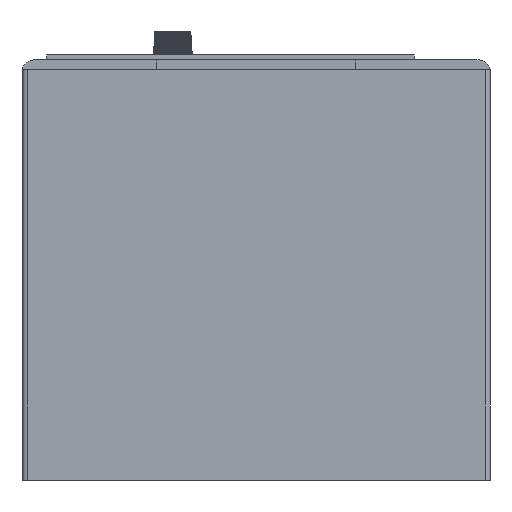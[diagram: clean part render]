
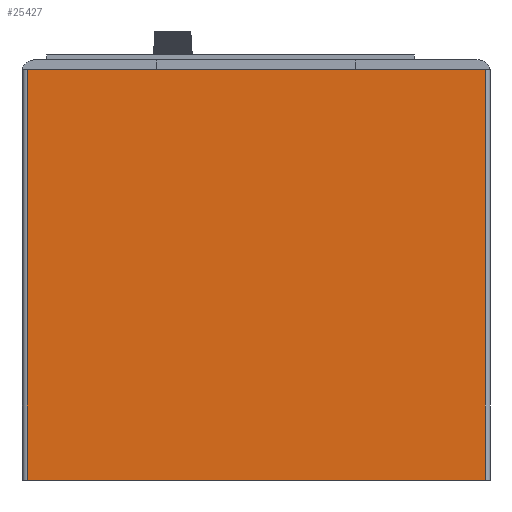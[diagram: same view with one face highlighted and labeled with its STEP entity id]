
A CAD part, front view. The second image highlights one B-rep face of the part: STEP entity #25427.
In plain terms, the highlighted planar face has unit normal (0, -1, 0).
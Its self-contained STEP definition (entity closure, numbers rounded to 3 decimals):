
#1543=PLANE('',#27088);
#2588=FACE_OUTER_BOUND('',#4231,.T.);
#4231=EDGE_LOOP('',(#17906,#17907,#17908,#17909));
#6463=LINE('',#36108,#8689);
#6464=LINE('',#36111,#8690);
#6465=LINE('',#36113,#8691);
#6466=LINE('',#36114,#8692);
#8689=VECTOR('',#29356,10.);
#8690=VECTOR('',#29359,10.);
#8691=VECTOR('',#29360,10.);
#8692=VECTOR('',#29361,10.);
#11726=VERTEX_POINT('',#36101);
#11729=VERTEX_POINT('',#36106);
#11730=VERTEX_POINT('',#36110);
#11731=VERTEX_POINT('',#36112);
#14301=EDGE_CURVE('',#11729,#11726,#6463,.T.);
#14302=EDGE_CURVE('',#11730,#11729,#6464,.T.);
#14303=EDGE_CURVE('',#11731,#11730,#6465,.T.);
#14304=EDGE_CURVE('',#11726,#11731,#6466,.T.);
#17906=ORIENTED_EDGE('',*,*,#14301,.F.);
#17907=ORIENTED_EDGE('',*,*,#14302,.F.);
#17908=ORIENTED_EDGE('',*,*,#14303,.F.);
#17909=ORIENTED_EDGE('',*,*,#14304,.F.);
#25427=ADVANCED_FACE('',(#2588),#1543,.T.);
#27088=AXIS2_PLACEMENT_3D('',#36109,#29357,#29358);
#29356=DIRECTION('',(0.,0.,-1.));
#29357=DIRECTION('center_axis',(0.,-1.,0.));
#29358=DIRECTION('ref_axis',(0.,0.,-1.));
#29359=DIRECTION('',(1.,0.,0.));
#29360=DIRECTION('',(0.,0.,1.));
#29361=DIRECTION('',(-1.,0.,0.));
#36101=CARTESIAN_POINT('',(93.5,0.,0.));
#36106=CARTESIAN_POINT('',(93.5,0.,167.6));
#36108=CARTESIAN_POINT('',(93.5,0.,125.7));
#36109=CARTESIAN_POINT('Origin',(0.,0.,167.6));
#36110=CARTESIAN_POINT('',(-93.5,0.,167.6));
#36111=CARTESIAN_POINT('',(0.,0.,167.6));
#36112=CARTESIAN_POINT('',(-93.5,0.,0.));
#36113=CARTESIAN_POINT('',(-93.5,0.,125.7));
#36114=CARTESIAN_POINT('',(0.,0.,0.));
